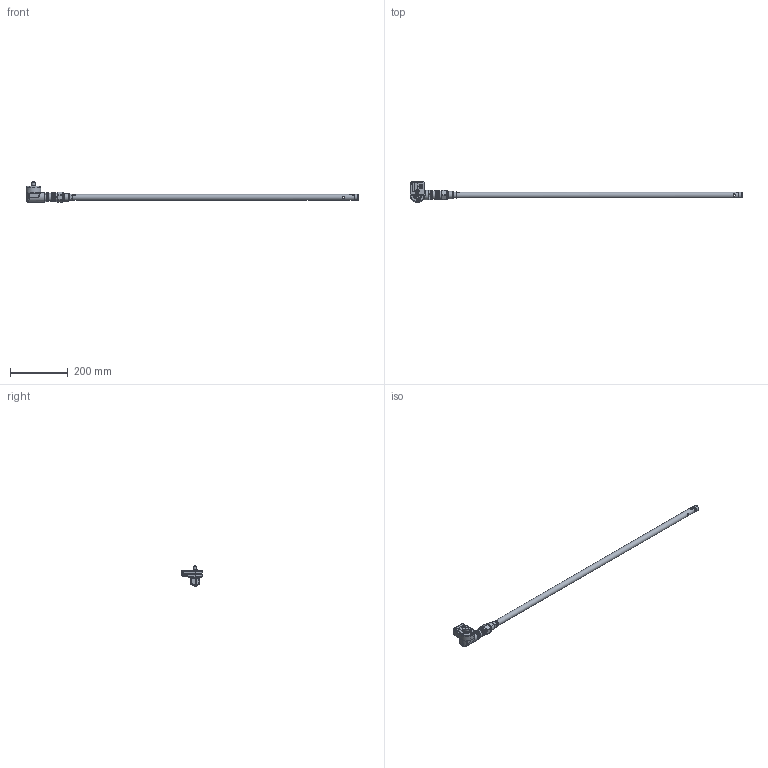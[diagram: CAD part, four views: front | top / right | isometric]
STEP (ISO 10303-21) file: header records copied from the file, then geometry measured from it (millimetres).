
FILE_DESCRIPTION(/* description */ (''),/* implementation_level */ '2;1');
FILE_NAME(/* name */ 'R:\Mekanisk design\HBLT-A3\5. STEP files\HBLT-A3-10-6.stp',/* time_stamp */ '2023-01-10T15:02:30+01:00',/* author */ ('ma'),/* organization */ (''),/* preprocessor_version */ 'ST-DEVELOPER v18.1',/* originating_system */ 'Autodesk Inventor 2021',/* authorisation */ '');
FILE_SCHEMA (('AUTOMOTIVE_DESIGN { 1 0 10303 214 3 1 1 }'));
Products named in the file (1): HBLT-A3-BSPP-Komp-R1_Shrinkwrap_3
Bounding box: 1148.3 x 72 x 71.99 mm (x, y, z)
Volume: 141975.9 mm3; surface area: 187662.3 mm2
Topology: 11 solids, 11 shells, 1403 faces, 3519 edges, 2229 vertices
Faces by surface type: plane 724, cylinder 263, bspline 201, cone 164, torus 43, sphere 8
Full cylindrical faces by diameter (mm): 3 x3, 3.2 x1, 3.6 x3, 4 x12, 4.2 x1, 4.7 x1, 5 x2, 6.647 x1, 8 x4, 8.5 x1, 10 x4, 10.1 x1, 10.4 x1, 10.917 x1, 12 x1, 12.5 x2, 13 x1, 15.5 x1, 17.9 x2, 18 x3, 19 x2, 20 x5, 22 x1, 23.8 x1, 24 x4, 25 x1, 25.376 x1, 25.4 x1, 26 x2, 26.8 x1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
Entity records: 51692 total; most frequent: CARTESIAN_POINT 18663, ORIENTED_EDGE 7030, DIRECTION 5856, EDGE_CURVE 3515, VERTEX_POINT 2229, AXIS2_PLACEMENT_3D 2004, LINE 1848, VECTOR 1848
